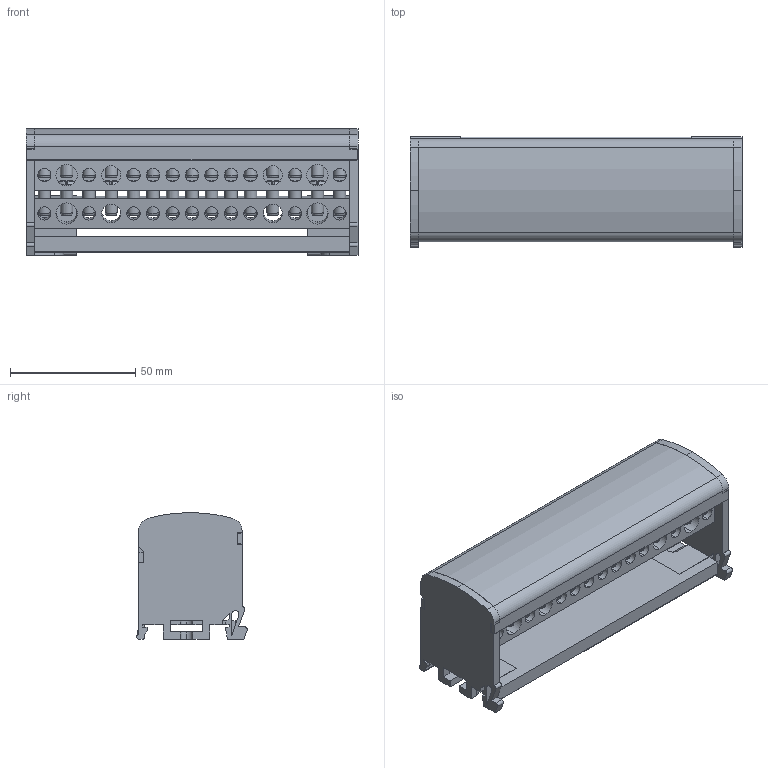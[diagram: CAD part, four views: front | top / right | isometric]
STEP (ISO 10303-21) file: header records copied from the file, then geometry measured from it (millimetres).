
FILE_DESCRIPTION (( 'STEP AP203' ), '1' );
FILE_NAME ('sn0-2x15 Øèíà íóëåâàÿ â êîðïóñå (2õ15).STEP', '2017-02-25T12:47:05', ( '' ), ( '' ), 'SwSTEP 2.0', 'SolidWorks 2010', '' );
FILE_SCHEMA (( 'CONFIG_CONTROL_DESIGN' ));
Length unit declared in the file: millimetre
Products named in the file (1): sn0-2x15 Øèíà íóëåâàÿ â êîðïóñå (2õ15)
Bounding box: 132.5 x 44.07 x 50.6 mm (x, y, z)
Volume: 60436.9 mm3; surface area: 62934 mm2
Topology: 36 solids, 36 shells, 1213 faces, 3285 edges, 2106 vertices
Faces by surface type: plane 748, cylinder 285, torus 120, cone 60
Entity records: 40184 total; most frequent: CARTESIAN_POINT 9057, ORIENTED_EDGE 6570, DIRECTION 6431, EDGE_CURVE 3285, AXIS2_PLACEMENT_3D 2172, VERTEX_POINT 2106, LINE 2087, VECTOR 2087
